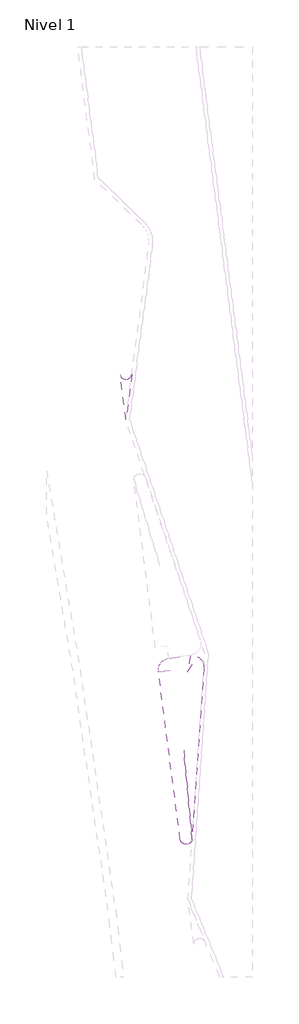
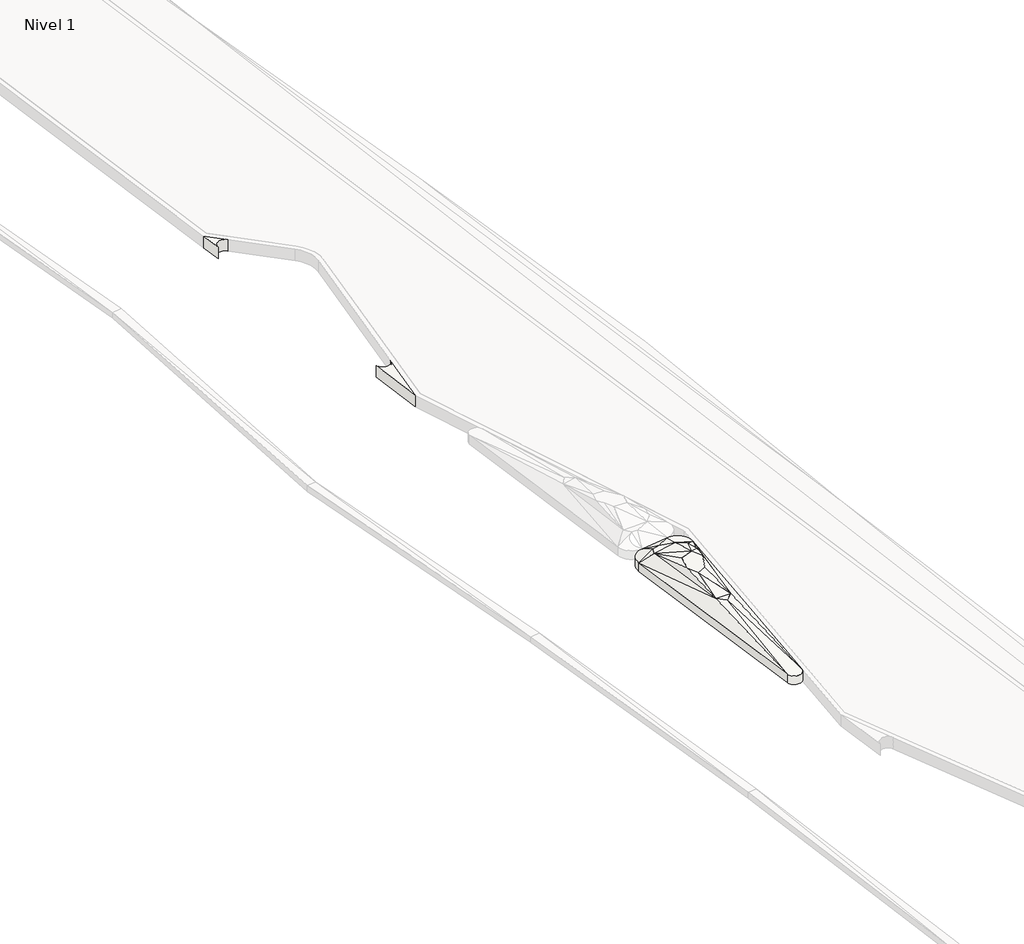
# One storey, part 34 of 45: 2 slabs.
"""IFC4 building model written with IfcOpenShell, lengths in millimetres."""

from ifc_helpers import new_model, si_unit, point, frame, frame_2d, origin, place, context, project, spatial, polyline, circle_curve, trimmed, segment, composite_curve, outline, extrude, element, save
from ifc_brep_helpers import plane_surface, cylinder_surface, spline_surface, advanced_brep

model = new_model("IFC4")

# Units and contexts
model_context = context("Model", 3, world=origin())
ifc_project = project(units=[si_unit("LENGTHUNIT", "METRE", prefix="MILLI")], contexts=[model_context])

# Site, building, storey
site = spatial("IfcSite", under=ifc_project)
building = spatial("IfcBuilding", under=site)
storey = spatial("IfcBuildingStorey", under=building, Name="Nivel 1", Elevation=0.0)

# Slabs
placement = place(None, origin())
element("IfcSlab", 1, ObjectType="Lippia", at=placement, inside=storey, context=model_context, shape_type="AdvancedBrep", body=[
    advanced_brep(
    [(-206061.8439599, 716836.7940004, 4950.0), (-206061.8439599, 716836.7940004, 5250.0), (-205175.9166153, 716951.603248, 5250.0), (-205175.9166153, 716951.603248, 4950.0), (-204612.9437169, 716419.9043969, 5250.0), (-204612.9437169, 716419.9043969, 4950.0), (-205096.5541119, 709374.7107217, 5250.0), (-205096.5541119, 709374.7107217, 4950.0), (-205594.0580988, 709360.9602237, 4950.0), (-205594.0580988, 709360.9602237, 5250.0), (-206490.4687267, 716278.9817205, 5250.0), (-206490.4687267, 716278.9817205, 4950.0), (-205297.0126935, 716266.1140628, 5550.0), (-205785.8932634, 716373.6908746, 5550.0), (-205297.0126935, 716266.1140628, 5250.0), (-205785.8932634, 716373.6908746, 5250.0), (-205314.8143543, 714543.9397871, 5750.0), (-205197.5962113, 714808.9106094, 5750.0), (-205080.3780682, 715073.8814317, 5750.0), (-205243.0272013, 715416.1557894, 5750.0), (-205664.0380728, 715259.3885144, 5750.0), (-205726.3936967, 714977.3709882, 5750.0), (-205777.891776, 714744.459183, 5750.0), (-205620.317459, 714405.1255284, 5750.0), (-205314.8143543, 714543.9397871, 5450.0), (-205620.317459, 714405.1255284, 5450.0), (-205777.891776, 714744.459183, 5450.0), (-205726.3936967, 714977.3709882, 5450.0), (-205664.0380728, 715259.3885144, 5450.0), (-205243.0272013, 715416.1557894, 5450.0), (-205080.3780682, 715073.8814317, 5450.0), (-205197.5962113, 714808.9106094, 5450.0), (-206087.0875069, 716094.1112962, 5550.0), (-206009.6890193, 716312.7588023, 5550.0), (-206087.0875069, 716094.1112962, 5250.0), (-206009.6890193, 716312.7588023, 5250.0), (-204992.8445695, 716067.1680693, 5550.0), (-204992.8445695, 716067.1680693, 5250.0), (-204903.7613382, 715714.8018765, 5550.0), (-205199.1983738, 713262.1159763, 5550.0), (-205199.1983738, 713262.1159763, 5250.0), (-204903.7613382, 715714.8018765, 5250.0), (-205695.0529906, 713257.8049228, 5550.0), (-205695.0529906, 713257.8049228, 5250.0), (-205445.2201816, 713042.0235246, 5550.0), (-205445.2201816, 713042.0235246, 5250.0)],
    [
        (0, 1),
        (1, 2),
        (2, 3),
        (3, 0),
        (2, 4, circle_curve(frame((-205111.6574258, 716455.7462126, 5250.0), z_axis=(0.0, 0.0, -1.0), x_axis=(0.9764306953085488, 0.21583117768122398, 0.0)), 499.9999992)),
        (4, 5),
        (5, 3, circle_curve(frame((-205111.6574258, 716455.7462126, 4950.0), z_axis=(0.0, 0.0, 1.0), x_axis=(0.9764306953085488, 0.21583117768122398, 0.0)), 499.9999992)),
        (4, 6),
        (6, 7),
        (7, 5),
        (8, 9),
        (9, 10),
        (10, 11),
        (11, 8),
        (10, 1, circle_curve(frame((-205994.375897, 716341.3668507, 5250.0), z_axis=(0.0, 0.0, -1.0), x_axis=(0.9764306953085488, 0.21583117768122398, 0.0)), 500.0000001)),
        (0, 11, circle_curve(frame((-205994.375897, 716341.3668507, 4950.0), z_axis=(0.0, 0.0, 1.0), x_axis=(0.9764306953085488, 0.21583117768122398, 0.0)), 500.0000001)),
        (2, 12),
        (12, 4),
        (1, 13),
        (13, 2),
        (5, 14),
        (14, 3),
        (3, 15),
        (15, 0),
        (16, 17),
        (17, 18),
        (18, 19),
        (19, 20),
        (20, 21),
        (21, 22),
        (22, 23),
        (23, 16),
        (24, 25),
        (25, 26),
        (26, 27),
        (27, 28),
        (28, 29),
        (29, 30),
        (30, 31),
        (31, 24),
        (20, 32),
        (32, 22),
        (10, 32),
        (32, 33),
        (33, 10),
        (19, 32),
        (26, 34),
        (34, 28),
        (11, 35),
        (35, 34),
        (34, 11),
        (34, 29),
        (32, 12),
        (12, 13),
        (13, 33),
        (19, 12),
        (12, 36),
        (36, 4),
        (35, 15),
        (15, 14),
        (14, 34),
        (14, 29),
        (5, 37),
        (37, 14),
        (4, 38),
        (38, 39),
        (39, 4),
        (19, 38),
        (38, 36),
        (36, 19),
        (5, 40),
        (40, 41),
        (41, 5),
        (29, 37),
        (37, 41),
        (41, 29),
        (22, 42),
        (42, 23),
        (23, 39),
        (39, 16),
        (39, 18),
        (25, 43),
        (43, 26),
        (24, 40),
        (40, 25),
        (30, 40),
        (42, 39),
        (40, 43),
        (1, 33),
        (35, 0),
        (10, 42),
        (42, 32),
        (42, 44),
        (44, 39),
        (18, 38),
        (34, 43),
        (43, 11),
        (40, 45),
        (45, 43),
        (41, 30),
        (6, 9, circle_curve(frame((-205345.9715222, 709391.8317347, 5250.0), z_axis=(0.0, 0.0, -1.0), x_axis=(0.9764306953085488, 0.21583117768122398, 0.0)), 249.9999994)),
        (8, 7, circle_curve(frame((-205345.9715222, 709391.8317347, 4950.0), z_axis=(0.0, 0.0, 1.0), x_axis=(0.9764306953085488, 0.21583117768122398, 0.0)), 249.9999994)),
        (9, 42),
        (9, 44),
        (6, 44),
        (6, 39),
        (43, 8),
        (45, 8),
        (45, 7),
        (40, 7),
    ],
    [
        plane_surface(frame((-206061.8439599, 716836.7940004, 4950.0), z_axis=(-0.1285174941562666, 0.9917072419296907, 0.0), x_axis=(0.0, 0.0, 1.0))),
        cylinder_surface(frame((-205111.6574258, 716455.7462126, 5250.0), z_axis=(0.0, 0.0, -1.0), x_axis=(0.9764306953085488, 0.21583117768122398, 0.0)), 499.9999992),
        plane_surface(frame((-204612.9437169, 716419.9043969, 4950.0), z_axis=(0.9976522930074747, -0.06848286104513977, 0.0), x_axis=(0.0, 0.0, 1.0))),
        plane_surface(frame((-205594.0580988, 709360.9602237, 4950.0), z_axis=(-0.991709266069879, -0.1285018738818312, 0.0), x_axis=(0.0, 0.0, 1.0))),
        cylinder_surface(frame((-205994.375897, 716341.3668507, 5250.0), z_axis=(0.0, 0.0, -1.0), x_axis=(0.9764306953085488, 0.21583117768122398, 0.0)), 500.0000001),
        spline_surface(2, 1, [[(-204612.9437169, 716419.9043969, 5250.0), (-205297.0126935, 716266.1140628, 5550.0)], [(-204595.94496178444, 716656.4301432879, 5250.0), (-205297.0126935, 716266.1140628, 5550.0)], [(-204768.34592345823, 716819.2530372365, 5250.0), (-205297.0126935, 716266.1140628, 5550.0)], [(-204940.74688514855, 716982.0759311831, 5250.0), (-205297.0126935, 716266.1140628, 5550.0)], [(-205175.9161727, 716951.5998328, 5250.0), (-205297.0126935, 716266.1140628, 5550.0)]], [3, 2, 3], [2, 2], [0.0, 1.0, 2.0], [0.0, 1.0], weights=[[1.0, 1.0], [0.9035324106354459, 0.9035324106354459], [1.0, 1.0], [0.9035324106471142, 0.9035324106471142], [1.0, 1.0]]),
        plane_surface(frame((-205674.5512795, 716720.696041, 5350.0), z_axis=(-0.06663769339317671, 0.5142107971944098, 0.8550711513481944), x_axis=(-0.9917072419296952, -0.12851749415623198, 0.0))),
        spline_surface(1, 2, [[(-204612.9437169, 716419.9043969, 4950.0), (-204595.94496178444, 716656.4301432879, 4950.0), (-204768.34592345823, 716819.2530372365, 4950.0), (-204940.74688514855, 716982.0759311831, 4950.0), (-205175.9161727, 716951.5998328, 4950.0)], [(-205297.0126935, 716266.1140628, 5250.0), (-205297.0126935, 716266.1140628, 5250.0), (-205297.0126935, 716266.1140628, 5250.0), (-205297.0126935, 716266.1140628, 5250.0), (-205297.0126935, 716266.1140628, 5250.0)]], [2, 2], [3, 2, 3], [0.0, 1.0], [0.0, 1.0, 2.0], weights=[[1.0, 0.9035324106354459, 1.0, 0.9035324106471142, 1.0], [1.0, 0.9035324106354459, 1.0, 0.9035324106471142, 1.0]]),
        plane_surface(frame((-205674.5512795, 716720.696041, 5050.0), z_axis=(0.06663769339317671, -0.5142107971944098, -0.8550711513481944), x_axis=(-0.9917072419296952, -0.12851749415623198, 0.0))),
        plane_surface(frame((-205450.0778219, 714907.1583723, 5750.0), z_axis=(0.0, 0.0, 1.0), x_axis=(0.4045623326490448, 0.9145104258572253, 0.0))),
        plane_surface(frame((-205450.0778219, 714907.1583723, 5450.0), z_axis=(0.0, 0.0, -1.0), x_axis=(0.4045623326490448, 0.9145104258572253, 0.0))),
        plane_surface(frame((-205843.0057852, 715365.9863312, 5683.3333333), z_axis=(-0.3119115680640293, 0.06896536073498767, 0.9476048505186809), x_axis=(0.2158912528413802, 0.97641741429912, 0.0))),
        plane_surface(frame((-206195.7484176, 716228.617273, 5450.0), z_axis=(-0.5294434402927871, 0.1874163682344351, 0.8273842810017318), x_axis=(0.7531046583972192, -0.345149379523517, 0.5600939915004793))),
        plane_surface(frame((-205664.7175937, 715589.8852, 5683.3333333), z_axis=(-0.07337556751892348, 0.19705586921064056, 0.9776425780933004), x_axis=(-0.7666747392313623, 0.6157988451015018, -0.18166349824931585))),
        plane_surface(frame((-205843.0057852, 715365.9863312, 5383.3333333), z_axis=(0.3119115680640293, -0.06896536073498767, -0.9476048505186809), x_axis=(0.2158912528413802, 0.97641741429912, 0.0))),
        plane_surface(frame((-206195.7484176, 716228.617273, 5150.0), z_axis=(0.5294434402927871, -0.1874163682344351, -0.8273842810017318), x_axis=(0.7531046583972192, -0.345149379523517, 0.5600939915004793))),
        plane_surface(frame((-205664.7175937, 715589.8852, 5383.3333333), z_axis=(0.07337556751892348, -0.19705586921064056, -0.9776425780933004), x_axis=(-0.7666747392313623, 0.6157988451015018, -0.18166349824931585))),
        plane_surface(frame((-205794.9206208, 716261.668759, 5550.0), z_axis=(0.0, 0.0, 1.0), x_axis=(0.9771128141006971, 0.2127217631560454, 0.0))),
        plane_surface(frame((-205542.3758006, 715925.4603828, 5616.6666667), z_axis=(-0.049160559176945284, 0.22581334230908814, 0.9729293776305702), x_axis=(-0.06170905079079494, 0.9715595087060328, -0.22861346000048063))),
        plane_surface(frame((-204967.6003266, 716251.0621764, 5450.0), z_axis=(0.28032439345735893, 0.42858739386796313, 0.8589127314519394), x_axis=(-0.8969887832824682, -0.2016583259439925, 0.3933764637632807))),
        plane_surface(frame((-205419.6075241, 716530.4693951, 5450.0), z_axis=(0.08511790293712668, 0.386816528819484, 0.9182199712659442), x_axis=(-0.6836626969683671, -0.6477250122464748, 0.33624042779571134))),
        plane_surface(frame((-205794.9206208, 716261.668759, 5250.0), z_axis=(0.0, 0.0, -1.0), x_axis=(0.9771128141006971, 0.2127217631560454, 0.0))),
        plane_surface(frame((-205542.3758006, 715925.4603828, 5316.6666667), z_axis=(0.049160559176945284, -0.22581334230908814, -0.9729293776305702), x_axis=(-0.06170905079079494, 0.9715595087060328, -0.22861346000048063))),
        plane_surface(frame((-204967.6003266, 716251.0621764, 5150.0), z_axis=(-0.28032439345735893, -0.42858739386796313, -0.8589127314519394), x_axis=(-0.8969887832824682, -0.2016583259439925, 0.3933764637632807))),
        plane_surface(frame((-205419.6075241, 716530.4693951, 5150.0), z_axis=(-0.08511790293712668, -0.386816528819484, -0.9182199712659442), x_axis=(-0.6836626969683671, -0.6477250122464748, 0.33624042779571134))),
        plane_surface(frame((-204905.301143, 715132.2740832, 5450.0), z_axis=(0.8204736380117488, -0.09882973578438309, 0.5630769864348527), x_axis=(-0.35482864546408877, -0.8603005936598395, 0.36603213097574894))),
        plane_surface(frame((-205046.5443696, 715732.7085784, 5616.6666667), z_axis=(0.4317439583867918, 0.10915106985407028, 0.8953676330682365), x_axis=(0.686414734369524, 0.604231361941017, -0.4046470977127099))),
        plane_surface(frame((-204905.301143, 715132.2740832, 5150.0), z_axis=(-0.8204736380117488, 0.09882973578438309, -0.5630769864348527), x_axis=(-0.35482864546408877, -0.8603005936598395, 0.36603213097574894))),
        plane_surface(frame((-205046.5443696, 715732.7085784, 5316.6666667), z_axis=(-0.4317439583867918, -0.10915106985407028, -0.8953676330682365), x_axis=(0.686414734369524, 0.604231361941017, -0.4046470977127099))),
        plane_surface(frame((-205697.7540752, 714135.7965447, 5683.3333333), z_axis=(-0.3094575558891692, -0.14370093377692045, 0.9399925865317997), x_axis=(-0.42116968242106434, 0.9069818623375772, 0.0))),
        plane_surface(frame((-205378.1100624, 714070.3937639, 5683.3333333), z_axis=(0.06719998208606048, -0.14789405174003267, 0.986717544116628), x_axis=(-0.9104234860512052, -0.41367750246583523, 0.0))),
        plane_surface(frame((-205198.1302655, 714293.3123984, 5683.3333333), z_axis=(0.27900011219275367, -0.12342443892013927, 0.952326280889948), x_axis=(0.08876641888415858, -0.9841451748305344, -0.15355389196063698))),
        plane_surface(frame((-205697.7540752, 714135.7965447, 5383.3333333), z_axis=(0.3094575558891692, 0.14370093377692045, -0.9399925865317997), x_axis=(-0.42116968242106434, 0.9069818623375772, 0.0))),
        plane_surface(frame((-205378.1100624, 714070.3937639, 5383.3333333), z_axis=(-0.06719998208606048, 0.14789405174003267, -0.986717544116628), x_axis=(-0.9104234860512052, -0.41367750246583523, 0.0))),
        plane_surface(frame((-205198.1302655, 714293.3123984, 5383.3333333), z_axis=(-0.27900011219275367, 0.12342443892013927, -0.952326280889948), x_axis=(0.08876641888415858, -0.9841451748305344, -0.15355389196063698))),
        plane_surface(frame((-205504.8562745, 713641.6821425, 5616.6666667), z_axis=(0.0014938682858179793, -0.17182377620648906, 0.985126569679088), x_axis=(-0.0640397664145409, -0.9831219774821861, -0.17137702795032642))),
        plane_surface(frame((-205504.8562745, 713641.6821425, 5316.6666667), z_axis=(-0.0014938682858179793, 0.17182377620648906, -0.985126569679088), x_axis=(-0.0640397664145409, -0.9831219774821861, -0.17137702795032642))),
        plane_surface(frame((-205952.4754142, 716507.7478924, 5450.0), z_axis=(-0.13140574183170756, 0.4826365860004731, 0.8659067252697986), x_axis=(0.08605289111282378, -0.8646303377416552, 0.49498411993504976))),
        spline_surface(2, 1, [[(-206061.8439599, 716836.7940004, 5250.0), (-206009.6890193, 716312.7588023, 5550.0)], [(-206552.2174963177, 716770.014146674, 5250.0), (-206009.6890193, 716312.7588023, 5550.0)], [(-206490.4687267, 716278.9817205, 5250.0), (-206009.6890193, 716312.7588023, 5550.0)]], [3, 3], [2, 2], [0.0, 1.0], [0.0, 1.0], weights=[[1.0, 1.0], [0.7107223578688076, 0.7107223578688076], [1.0, 1.0]]),
        plane_surface(frame((-205952.4754142, 716507.7478924, 5150.0), z_axis=(0.13140574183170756, -0.4826365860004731, -0.8659067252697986), x_axis=(0.08605289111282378, -0.8646303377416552, 0.49498411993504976))),
        spline_surface(1, 2, [[(-206061.8439599, 716836.7940004, 4950.0), (-206552.2174963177, 716770.014146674, 4950.0), (-206490.4687267, 716278.9817205, 4950.0)], [(-206009.6890193, 716312.7588023, 5250.0), (-206009.6890193, 716312.7588023, 5250.0), (-206009.6890193, 716312.7588023, 5250.0)]], [2, 2], [3, 3], [0.0, 1.0], [0.0, 1.0], weights=[[1.0, 0.7107223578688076, 1.0], [1.0, 0.7107223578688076, 1.0]]),
        plane_surface(frame((-205177.6281548, 715916.4793072, 5616.6666667), z_axis=(0.15408310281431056, 0.23557734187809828, 0.9595632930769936), x_axis=(0.3448226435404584, 0.897279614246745, -0.27565674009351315))),
        plane_surface(frame((-205177.6281548, 715916.4793072, 5316.6666667), z_axis=(-0.15408310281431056, -0.23557734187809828, -0.9595632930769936), x_axis=(0.3448226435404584, 0.897279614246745, -0.27565674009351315))),
        plane_surface(frame((-206090.8697414, 715210.2993132, 5450.0), z_axis=(-0.6195468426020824, -0.08563381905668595, 0.7802746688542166), x_axis=(0.25343801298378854, -0.9626174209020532, 0.09558699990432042))),
        plane_surface(frame((-205446.4905153, 713187.3148079, 5550.0), z_axis=(0.0, 0.0, 1.0), x_axis=(-0.9999622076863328, -0.0086938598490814, 0.0))),
        plane_surface(frame((-205075.7222025, 715401.6130325, 5683.3333333), z_axis=(0.3775806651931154, 0.1794267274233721, 0.9084266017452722), x_axis=(0.4292049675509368, -0.9032071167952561, 0.0))),
        plane_surface(frame((-204836.5165415, 716067.2914476, 5450.0), z_axis=(0.5338566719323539, 0.1349666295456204, 0.8347341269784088), x_axis=(-0.6342723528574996, -0.5889191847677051, 0.5008720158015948))),
        plane_surface(frame((-206090.8697414, 715210.2993132, 5150.0), z_axis=(0.6195468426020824, 0.08563381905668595, -0.7802746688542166), x_axis=(0.25343801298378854, -0.9626174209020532, 0.09558699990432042))),
        plane_surface(frame((-205446.4905153, 713187.3148079, 5250.0), z_axis=(0.0, 0.0, -1.0), x_axis=(-0.9999622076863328, -0.0086938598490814, 0.0))),
        plane_surface(frame((-205075.7222025, 715401.6130325, 5383.3333333), z_axis=(-0.3775806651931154, -0.1794267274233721, -0.9084266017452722), x_axis=(0.4292049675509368, -0.9032071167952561, 0.0))),
        plane_surface(frame((-204836.5165415, 716067.2914476, 5150.0), z_axis=(-0.5338566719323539, -0.1349666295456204, -0.8347341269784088), x_axis=(-0.6342723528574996, -0.5889191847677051, 0.5008720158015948))),
        plane_surface(frame((-205853.3440912, 714698.7918006, 5616.6666667), z_axis=(-0.8466189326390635, -0.11701974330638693, 0.5191750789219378), x_axis=(-0.221014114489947, 0.9647357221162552, -0.14296065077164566))),
        plane_surface(frame((-205853.3440912, 714698.7918006, 5316.6666667), z_axis=(0.8466189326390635, 0.11701974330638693, -0.5191750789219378), x_axis=(-0.221014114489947, 0.9647357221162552, -0.14296065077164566))),
        plane_surface(frame((-205061.1125934, 714683.5997615, 5616.6666667), z_axis=(0.8903082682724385, -0.10724163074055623, 0.44254990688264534), x_axis=(-0.0650485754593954, -0.9918570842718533, -0.1094906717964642))),
        plane_surface(frame((-205061.1125934, 714683.5997615, 5316.6666667), z_axis=(-0.8903082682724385, 0.10724163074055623, -0.44254990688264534), x_axis=(-0.0650485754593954, -0.9918570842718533, -0.1094906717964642))),
        cylinder_surface(frame((-205345.9715222, 709391.8317347, 5250.0), z_axis=(0.0, 0.0, -1.0), x_axis=(0.9764306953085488, 0.21583117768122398, 0.0)), 249.9999994),
        plane_surface(frame((-205926.5266054, 712965.9156223, 5350.0), z_axis=(-0.5944601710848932, -0.07702786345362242, 0.8004272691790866), x_axis=(0.1285018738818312, -0.991709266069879, 0.0))),
        plane_surface(frame((-205578.1104237, 711886.9295571, 5450.0), z_axis=(-0.06764975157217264, -0.07832522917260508, 0.9946299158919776), x_axis=(0.025832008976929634, -0.9967170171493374, -0.07673262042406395))),
        spline_surface(2, 1, [[(-205594.0580988, 709360.9602237, 5250.0), (-205445.2201816, 713042.0235246, 5550.0)], [(-205566.0213551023, 709135.6541231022, 5250.0), (-205445.2201816, 713042.0235246, 5550.0)], [(-205339.06420765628, 709141.9271755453, 5250.0), (-205445.2201816, 713042.0235246, 5550.0)], [(-205112.10706021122, 709148.2002279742, 5250.0), (-205445.2201816, 713042.0235246, 5550.0)], [(-205096.5584496, 709374.7110195, 5250.0), (-205445.2201816, 713042.0235246, 5550.0)]], [3, 2, 3], [2, 2], [0.0, 1.0, 2.0], [0.0, 1.0], weights=[[1.0, 1.0], [0.7402773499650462, 0.7402773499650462], [1.0, 1.0], [0.7402773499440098, 0.7402773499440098], [1.0, 1.0]]),
        plane_surface(frame((-205246.9908891, 711892.9500742, 5450.0), z_axis=(0.06710314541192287, -0.07500864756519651, 0.9949225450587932), x_axis=(-0.7452899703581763, -0.6667404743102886, 0.0))),
        plane_surface(frame((-204969.5654009, 713018.910365, 5350.0), z_axis=(0.6297354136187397, -0.04322756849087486, 0.775606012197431), x_axis=(-0.18174335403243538, -0.9789381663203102, 0.09300225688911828))),
        plane_surface(frame((-205926.5266054, 712965.9156223, 5050.0), z_axis=(0.5944601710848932, 0.07702786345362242, -0.8004272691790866), x_axis=(0.1285018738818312, -0.991709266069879, 0.0))),
        plane_surface(frame((-205578.1104237, 711886.9295571, 5150.0), z_axis=(0.06764975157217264, 0.07832522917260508, -0.9946299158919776), x_axis=(0.025832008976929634, -0.9967170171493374, -0.07673262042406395))),
        spline_surface(1, 2, [[(-205594.0580988, 709360.9602237, 4950.0), (-205566.0213551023, 709135.6541231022, 4950.0), (-205339.06420765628, 709141.9271755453, 4950.0), (-205112.10706021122, 709148.2002279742, 4950.0), (-205096.5584496, 709374.7110195, 4950.0)], [(-205445.2201816, 713042.0235246, 5250.0), (-205445.2201816, 713042.0235246, 5250.0), (-205445.2201816, 713042.0235246, 5250.0), (-205445.2201816, 713042.0235246, 5250.0), (-205445.2201816, 713042.0235246, 5250.0)]], [2, 2], [3, 2, 3], [0.0, 1.0], [0.0, 1.0, 2.0], weights=[[1.0, 0.7402773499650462, 1.0, 0.7402773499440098, 1.0], [1.0, 0.7402773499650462, 1.0, 0.7402773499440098, 1.0]]),
        plane_surface(frame((-205246.9908891, 711892.9500742, 5150.0), z_axis=(-0.06710314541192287, 0.07500864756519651, -0.9949225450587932), x_axis=(-0.7452899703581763, -0.6667404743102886, 0.0))),
        plane_surface(frame((-204969.5654009, 713018.910365, 5050.0), z_axis=(-0.6297354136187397, 0.04322756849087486, -0.775606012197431), x_axis=(-0.18174335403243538, -0.9789381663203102, 0.09300225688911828))),
    ],
    [
        (0, [[1, 2, 3, 4]]),
        (1, [[-3, 5, 6, 7]]),
        (2, [[-6, 8, 9, 10]]),
        (3, [[11, 12, 13, 14]]),
        (4, [[-13, 15, -1, 16]]),
        (5, [[-5, 17, 18]]),
        (6, [[-2, 19, 20]]),
        (7, [[21, 22, -7]]),
        (8, [[23, 24, -4]]),
        (9, [[25, 26, 27, 28, 29, 30, 31, 32]]),
        (10, [[33, 34, 35, 36, 37, 38, 39, 40]]),
        (11, [[-29, 41, 42, -30]]),
        (12, [[43, 44, 45]]),
        (13, [[46, -41, -28]]),
        (14, [[-35, 47, 48, -36]]),
        (15, [[49, 50, 51]]),
        (16, [[-37, -48, 52]]),
        (17, [[53, 54, 55, -44]]),
        (18, [[56, -53, -46]]),
        (19, [[-18, 57, 58]]),
        (20, [[-20, -54, -17]]),
        (21, [[-50, 59, 60, 61]]),
        (22, [[-52, -61, 62]]),
        (23, [[63, 64, -21]]),
        (24, [[-22, -60, -23]]),
        (25, [[65, 66, 67]]),
        (26, [[68, 69, 70]]),
        (27, [[71, 72, 73]]),
        (28, [[74, 75, 76]]),
        (29, [[-31, 77, 78]]),
        (30, [[-32, 79, 80]]),
        (31, [[-80, 81, -26, -25]]),
        (32, [[82, 83, -34]]),
        (33, [[84, 85, -33]]),
        (34, [[-40, -39, 86, -84]]),
        (35, [[-78, 87, -79]]),
        (36, [[-85, 88, -82]]),
        (37, [[89, -55, -19]]),
        (38, [[-45, -89, -15]]),
        (39, [[-24, -59, 90]]),
        (40, [[-16, -90, -49]]),
        (41, [[-70, -57, -56]]),
        (42, [[-62, -64, -74]]),
        (43, [[91, 92, -43]]),
        (44, [[-87, 93, 94]]),
        (45, [[-27, 95, -68]]),
        (46, [[-58, -69, -65]]),
        (47, [[-51, 96, 97]]),
        (48, [[98, 99, -88]]),
        (49, [[-76, 100, -38]]),
        (50, [[-73, -75, -63]]),
        (51, [[-42, -92, -77]]),
        (52, [[-83, -96, -47]]),
        (53, [[-81, -66, -95]]),
        (54, [[-100, -72, -86]]),
        (55, [[-9, 101, -11, 102]]),
        (56, [[-12, 103, -91]]),
        (57, [[-103, 104, -93]]),
        (58, [[-104, -101, 105]]),
        (59, [[-94, -105, 106]]),
        (60, [[-67, -106, -8]]),
        (61, [[-97, 107, -14]]),
        (62, [[-99, 108, -107]]),
        (63, [[109, -102, -108]]),
        (64, [[110, -109, -98]]),
        (65, [[-10, -110, -71]]),
    ],
),
])
element("IfcSlab", 2, ObjectType="Bordillo", at=placement, inside=storey, context=model_context, shape_type="SweptSolid", body=[
    extrude(outline(composite_curve([segment(polyline([(-207591.1872405, 728565.7812563), (-207839.6778617, 726690.1455764), (-208078.6090332, 728535.3865588)]), True, "CONTINUOUS"), segment(trimmed(circle_curve(frame_2d((-207838.4617396, 728607.7312985)), 250.8076633), [point((-208078.6090332, 728535.3865588))], [point((-207591.1872405, 728565.7812563))], True, "CARTESIAN"), True, "CONTINUOUS")], self_intersect=False)), frame((0.0, 0.0, 4850.0), z_axis=(0.0, 0.0, 1.0), x_axis=(1.0, 0.0, 0.0)), (0.0, 0.0, 1.0), 400.0),
    extrude(outline(composite_curve([segment(polyline([(-209033.7050627, 735906.310841), (-209124.6230102, 736607.9673092), (-208612.6986759, 736111.1003596)]), True, "CONTINUOUS"), segment(trimmed(circle_curve(frame_2d((-208784.8088383, 735929.7771894)), 250.0000001), [point((-208612.6986759, 736111.1003596))], [point((-209033.7050627, 735906.310841))], True, "CARTESIAN"), True, "CONTINUOUS")], self_intersect=False)), frame((0.0, 0.0, 4850.0), z_axis=(0.0, 0.0, 1.0), x_axis=(1.0, 0.0, 0.0)), (0.0, 0.0, 1.0), 400.0),
])

save(model, "model.ifc")
